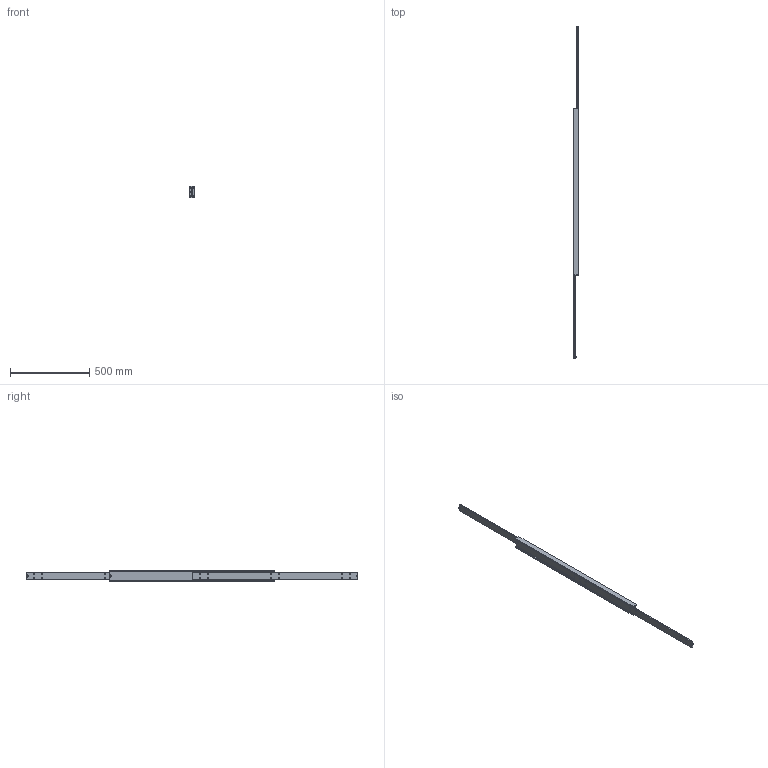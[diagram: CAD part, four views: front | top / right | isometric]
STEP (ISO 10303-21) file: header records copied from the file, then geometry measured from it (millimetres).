
FILE_DESCRIPTION(/* description */ (''),/* implementation_level */ '2;1');
FILE_NAME(/* name */ 'D:\Zeichnungen Schienen Komplett\MX-DTP70\MX-DTP70.105\MX-DTP70.105_ausgefahren.step',/* time_stamp */ '2022-08-30T10:07:28+02:00',/* author */ ('zmile'),/* organization */ (''),/* preprocessor_version */ 'ST-DEVELOPER v16.13',/* originating_system */ 'AutoCAD Mechanical',/* authorisation */ '');
FILE_SCHEMA (('AUTOMOTIVE_DESIGN { 1 0 10303 214 3 1 1 }'));
Products named in the file (1): Product
Bounding box: 32 x 2100 x 70 mm (x, y, z)
Volume: 1862836.8 mm3; surface area: 666138.3 mm2
Topology: 75 solids, 75 shells, 354 faces, 1000 edges, 664 vertices
Faces by surface type: cylinder 108, plane 86, bspline 86, sphere 68, torus 6
Full cylindrical faces by diameter (mm): 9 x68, 13 x2
Entity records: 193470 total; most frequent: CARTESIAN_POINT 185340, ORIENTED_EDGE 1572, DIRECTION 1342, EDGE_CURVE 786, VERTEX_POINT 662, EDGE_LOOP 622, AXIS2_PLACEMENT_3D 565, FACE_OUTER_BOUND 354
